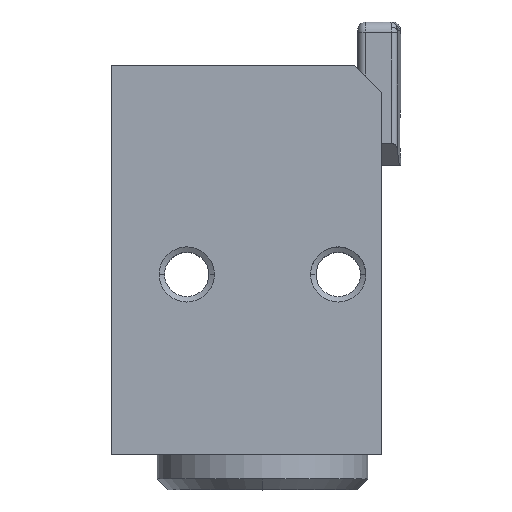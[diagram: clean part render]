
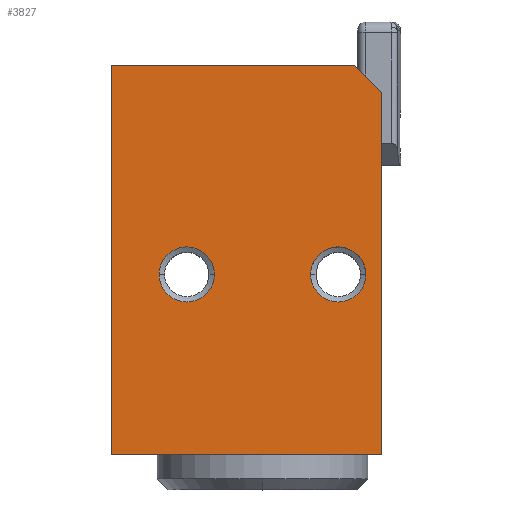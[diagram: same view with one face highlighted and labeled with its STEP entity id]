
A CAD part, top view. The second image highlights one B-rep face of the part: STEP entity #3827.
In plain terms, the highlighted planar face has unit normal (0, 0, 1).
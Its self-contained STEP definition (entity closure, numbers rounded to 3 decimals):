
#413 = DIRECTION ( 'NONE',  ( 0., 1., 0. ) ) ;
#414 = VECTOR ( 'NONE', #413, 1000. ) ;
#415 = CARTESIAN_POINT ( 'NONE',  ( 0., 0., 40. ) ) ;
#416 = LINE ( 'NONE', #415, #414 ) ;
#490 = DIRECTION ( 'NONE',  ( 0., -1., 0. ) ) ;
#491 = VECTOR ( 'NONE', #490, 1000. ) ;
#492 = CARTESIAN_POINT ( 'NONE',  ( -50., 0., 40. ) ) ;
#493 = LINE ( 'NONE', #492, #491 ) ;
#501 = DIRECTION ( 'NONE',  ( 1., 0., 0. ) ) ;
#502 = DIRECTION ( 'NONE',  ( 0., 0., 1. ) ) ;
#503 = AXIS2_PLACEMENT_3D ( 'NONE', #509, #502, #501 ) ;
#504 = CIRCLE ( 'NONE', #503, 5.1 ) ;
#505 = DIRECTION ( 'NONE',  ( 1., 0., 0. ) ) ;
#506 = DIRECTION ( 'NONE',  ( 0., 0., 1. ) ) ;
#507 = CARTESIAN_POINT ( 'NONE',  ( 0., 72., 40. ) ) ;
#508 = AXIS2_PLACEMENT_3D ( 'NONE', #507, #506, #505 ) ;
#509 = CARTESIAN_POINT ( 'NONE',  ( -36., 33.3, 40. ) ) ;
#573 = PLANE ( 'NONE',  #508 ) ;
#574 = FACE_OUTER_BOUND ( 'NONE', #4080, .T. ) ;
#575 = FACE_BOUND ( 'NONE', #3832, .T. ) ;
#576 = FACE_BOUND ( 'NONE', #3828, .T. ) ;
#581 = CARTESIAN_POINT ( 'NONE',  ( -50., 0., 40. ) ) ;
#664 = DIRECTION ( 'NONE',  ( 1., 0., 0. ) ) ;
#665 = VECTOR ( 'NONE', #664, 1000. ) ;
#666 = CARTESIAN_POINT ( 'NONE',  ( 0., 0., 40. ) ) ;
#667 = LINE ( 'NONE', #666, #665 ) ;
#668 = CARTESIAN_POINT ( 'NONE',  ( 0., 0., 40. ) ) ;
#704 = CARTESIAN_POINT ( 'NONE',  ( 0., 67., 40. ) ) ;
#1031 = DIRECTION ( 'NONE',  ( -0.707, 0.707, 0. ) ) ;
#1032 = VECTOR ( 'NONE', #1031, 1000. ) ;
#1033 = CARTESIAN_POINT ( 'NONE',  ( -2.5, 69.5, 40. ) ) ;
#1034 = LINE ( 'NONE', #1033, #1032 ) ;
#1035 = DIRECTION ( 'NONE',  ( 1., 0., 0. ) ) ;
#1036 = DIRECTION ( 'NONE',  ( 0., 0., 1. ) ) ;
#1037 = CARTESIAN_POINT ( 'NONE',  ( -8., 33.3, 40. ) ) ;
#1038 = AXIS2_PLACEMENT_3D ( 'NONE', #1037, #1036, #1035 ) ;
#1039 = CIRCLE ( 'NONE', #1038, 5.1 ) ;
#1166 = CARTESIAN_POINT ( 'NONE',  ( -50., 72., 40. ) ) ;
#1167 = CARTESIAN_POINT ( 'NONE',  ( -5., 72., 40. ) ) ;
#1168 = DIRECTION ( 'NONE',  ( -1., 0., 0. ) ) ;
#1169 = VECTOR ( 'NONE', #1168, 1000. ) ;
#1170 = CARTESIAN_POINT ( 'NONE',  ( 0., 72., 40. ) ) ;
#1171 = LINE ( 'NONE', #1170, #1169 ) ;
#2126 = CARTESIAN_POINT ( 'NONE',  ( -13.1, 33.3, 40. ) ) ;
#2219 = CARTESIAN_POINT ( 'NONE',  ( -30.9, 33.3, 40. ) ) ;
#2326 = CARTESIAN_POINT ( 'NONE',  ( -2.9, 33.3, 40. ) ) ;
#2327 = DIRECTION ( 'NONE',  ( 1., 0., 0. ) ) ;
#2328 = DIRECTION ( 'NONE',  ( 0., 0., 1. ) ) ;
#2329 = CARTESIAN_POINT ( 'NONE',  ( -8., 33.3, 40. ) ) ;
#2330 = AXIS2_PLACEMENT_3D ( 'NONE', #2329, #2328, #2327 ) ;
#2331 = CIRCLE ( 'NONE', #2330, 5.1 ) ;
#2376 = DIRECTION ( 'NONE',  ( 1., 0., 0. ) ) ;
#2377 = DIRECTION ( 'NONE',  ( 0., 0., 1. ) ) ;
#2378 = CARTESIAN_POINT ( 'NONE',  ( -36., 33.3, 40. ) ) ;
#2379 = AXIS2_PLACEMENT_3D ( 'NONE', #2378, #2377, #2376 ) ;
#2380 = CIRCLE ( 'NONE', #2379, 5.1 ) ;
#2383 = CARTESIAN_POINT ( 'NONE',  ( -41.1, 33.3, 40. ) ) ;
#3720 = EDGE_CURVE ( 'NONE', #3790, #3771, #416, .T. ) ;
#3771 = VERTEX_POINT ( 'NONE', #704 ) ;
#3790 = VERTEX_POINT ( 'NONE', #668 ) ;
#3792 = EDGE_CURVE ( 'NONE', #3821, #3790, #667, .T. ) ;
#3821 = VERTEX_POINT ( 'NONE', #581 ) ;
#3827 = ADVANCED_FACE ( 'NONE', ( #576, #575, #574 ), #573, .T. ) ;
#3828 = EDGE_LOOP ( 'NONE', ( #3829, #3831 ) ) ;
#3829 = ORIENTED_EDGE ( 'NONE', *, *, #3830, .F. ) ;
#3830 = EDGE_CURVE ( 'NONE', #4802, #4822, #504, .T. ) ;
#3831 = ORIENTED_EDGE ( 'NONE', *, *, #4824, .F. ) ;
#3832 = EDGE_LOOP ( 'NONE', ( #4077, #4079 ) ) ;
#3840 = EDGE_CURVE ( 'NONE', #4169, #3821, #493, .T. ) ;
#4077 = ORIENTED_EDGE ( 'NONE', *, *, #4078, .F. ) ;
#4078 = EDGE_CURVE ( 'NONE', #4819, #4786, #1039, .T. ) ;
#4079 = ORIENTED_EDGE ( 'NONE', *, *, #4818, .F. ) ;
#4080 = EDGE_LOOP ( 'NONE', ( #4081, #4082, #4084, #4085, #4162 ) ) ;
#4081 = ORIENTED_EDGE ( 'NONE', *, *, #3720, .T. ) ;
#4082 = ORIENTED_EDGE ( 'NONE', *, *, #4083, .T. ) ;
#4083 = EDGE_CURVE ( 'NONE', #3771, #4168, #1034, .T. ) ;
#4084 = ORIENTED_EDGE ( 'NONE', *, *, #4167, .T. ) ;
#4085 = ORIENTED_EDGE ( 'NONE', *, *, #3840, .T. ) ;
#4162 = ORIENTED_EDGE ( 'NONE', *, *, #3792, .T. ) ;
#4167 = EDGE_CURVE ( 'NONE', #4168, #4169, #1171, .T. ) ;
#4168 = VERTEX_POINT ( 'NONE', #1167 ) ;
#4169 = VERTEX_POINT ( 'NONE', #1166 ) ;
#4786 = VERTEX_POINT ( 'NONE', #2126 ) ;
#4802 = VERTEX_POINT ( 'NONE', #2219 ) ;
#4818 = EDGE_CURVE ( 'NONE', #4786, #4819, #2331, .T. ) ;
#4819 = VERTEX_POINT ( 'NONE', #2326 ) ;
#4822 = VERTEX_POINT ( 'NONE', #2383 ) ;
#4824 = EDGE_CURVE ( 'NONE', #4822, #4802, #2380, .T. ) ;
